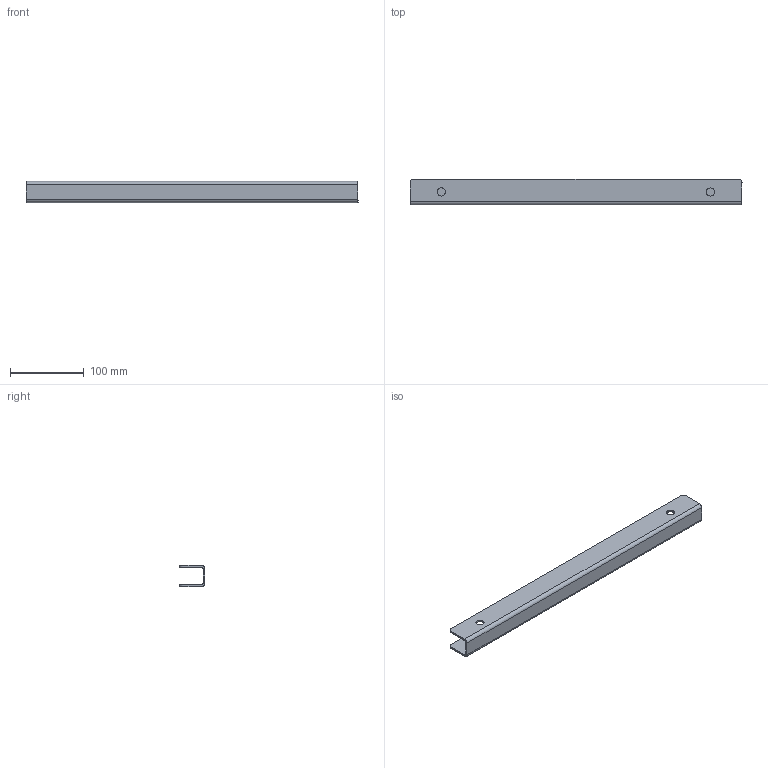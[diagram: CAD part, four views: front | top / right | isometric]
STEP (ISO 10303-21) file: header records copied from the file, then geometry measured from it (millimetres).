
FILE_DESCRIPTION(('CATIA V5 STEP Exchange'),'2;1');
FILE_NAME('D:\杨逍（新）\06-李燕龙\2023.1.9-G3新开件2D图纸-李燕龙\钣金单件图纸\SHT0015272-左框连接板\SHT0015272.stp','2023-01-11T06:24:25+00:00',('none'),('none'),'CATIA Version 5 Release 20 GA (IN-10)','CATIA V5 STEP AP214','none');
FILE_SCHEMA(('AUTOMOTIVE_DESIGN { 1 0 10303 214 1 1 1 1 }'));
Length unit declared in the file: millimetre
Products named in the file (1): Part60
Bounding box: 451.5 x 35.05 x 28.7 mm (x, y, z)
Volume: 101610.9 mm3; surface area: 84324.9 mm2
Topology: 1 solids, 1 shells, 26 faces, 72 edges, 48 vertices
Faces by surface type: cylinder 16, plane 10
Entity records: 887 total; most frequent: CARTESIAN_POINT 188, ORIENTED_EDGE 144, DIRECTION 120, EDGE_CURVE 72, AXIS2_PLACEMENT_3D 55, VERTEX_POINT 48, VECTOR 40, LINE 40
